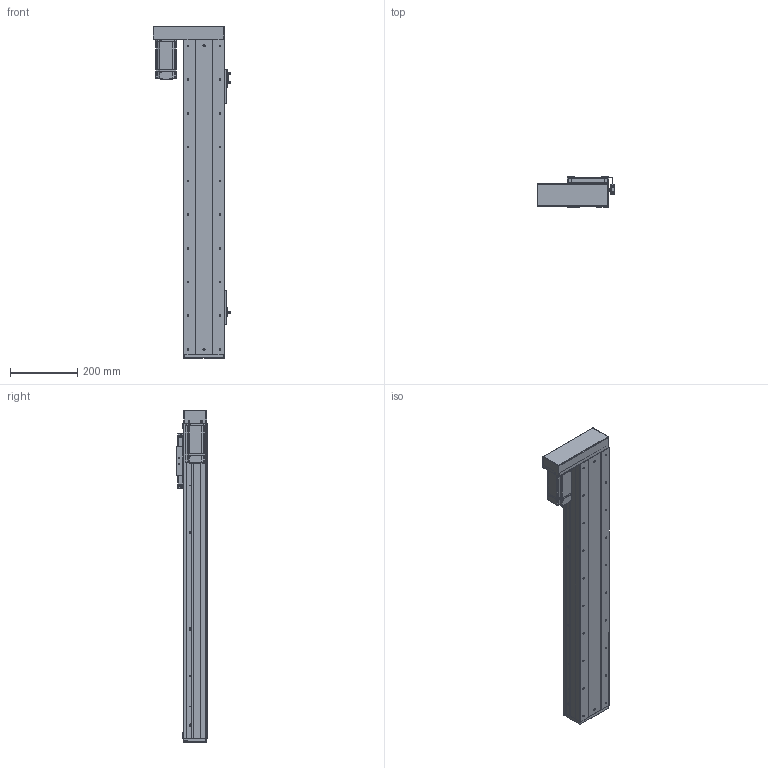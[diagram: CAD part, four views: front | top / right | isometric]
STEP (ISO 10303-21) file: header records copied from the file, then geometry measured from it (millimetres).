
FILE_DESCRIPTION (( 'STEP AP203' ), '1' );
FILE_NAME ('RY120F-L1620-300-LK.SLDASM_700.step', '2021-03-02T08:04:05', ( '盈信电脑' ), ( '东莞市道滘镇水果街19号' ), 'SwSTEP 2.0', 'SolidWorks 2012', '' );
FILE_SCHEMA (( 'CONFIG_CONTROL_DESIGN' ));
Length unit declared in the file: millimetre
Products named in the file (18): RY120F-L1620-300-LK.SLDASM_700; RY120F酘衵殏萇儂欶(200W); 15; FY120F詩湍揤踡輸; RY80俋离覜茼え; RY120F酘衵殏萇儂啣(200W PCD70 M4); 覜茼ん672; 672嫖萇羲壽假蚾釱; RY120F-詩湍幗謫粣; RY120F綴裔啣(臏璃ㄘ; RY120F转折电机端支撑座; 滅袉蝶18-24; RY120F祥凄詩滅鳥裔; RT120F-臏賑輸 16蹟譫; RT120F-臏賑輸奻釱; RY120F滅鳥詩湍-300-LK_700; RT120F-300-倰第裔啣-LK_700; RT120F-300-倰第菁釱-LK_700
Assembly tree (23 placements, depth 2):
  RY120F-L1620-300-LK.SLDASM_700
    RT120F-300-倰第菁釱-LK_700
    RT120F-300-倰第裔啣-LK_700  x2
    RY120F滅鳥詩湍-300-LK_700
    RT120F-臏賑輸 16蹟譫
    RT120F-臏賑輸奻釱
    RY120F转折电机端支撑座
    RY120F祥凄詩滅鳥裔
    滅袉蝶18-24  x2
    RY120F綴裔啣(臏璃ㄘ
    RY120F-詩湍幗謫粣
    覜茼ん672  x3
    672嫖萇羲壽假蚾釱  x2
    RY80俋离覜茼え
    FY120F詩湍揤踡輸  x2
    15
    RY120F酘衵殏萇儂啣(200W PCD70 M4)
    RY120F酘衵殏萇儂欶(200W)
Bounding box: 229.9 x 89 x 984 mm (x, y, z)
Volume: 3496667.7 mm3; surface area: 1278034.4 mm2
Topology: 23 solids, 23 shells, 2115 faces, 5673 edges, 3607 vertices
Faces by surface type: cylinder 952, plane 896, cone 241, bspline 26
Entity records: 59375 total; most frequent: CARTESIAN_POINT 10994, DIRECTION 10021, ORIENTED_EDGE 9362, EDGE_CURVE 4681, AXIS2_PLACEMENT_3D 3630, VERTEX_POINT 3051, VECTOR 2761, LINE 2761
